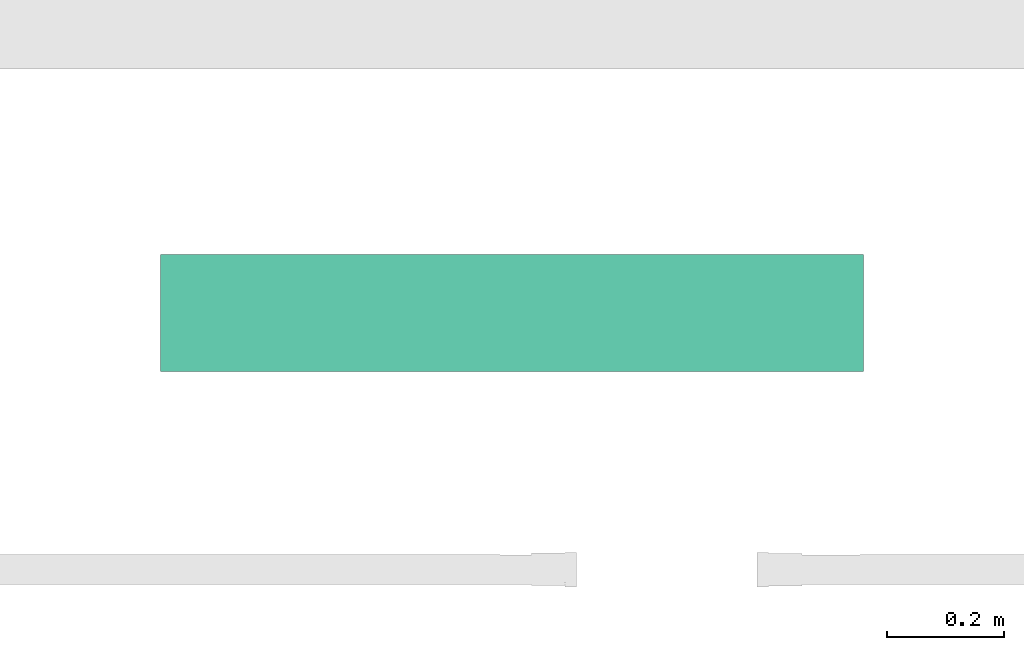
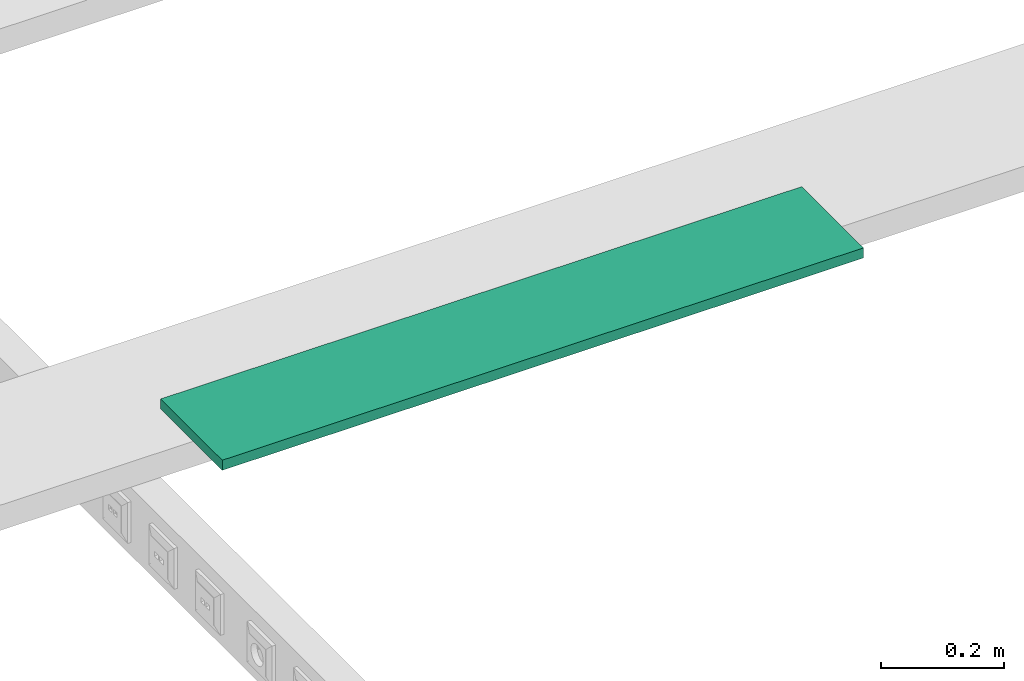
# One storey, part 14 of 153: 1 flow terminal.
"""IFC2X3 building model written with IfcOpenShell, lengths in metres."""

from ifc_helpers import new_model, entity, si_unit, converted_unit, derived_unit, direction, frame, origin, origin_2d_with_axis, place, context, subcontext, project, spatial, rectangle, extrude, source, transform, mapped, type_object, type_shapes, element, save


model = new_model("IFC2X3")

# Units and contexts
model_context = context("Model", 3, precision=1e-05, world=origin(), true_north=direction((6.12303176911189e-17, 1.0)))
body_context = subcontext(model_context, "Body", "Model", "MODEL_VIEW")
ifc_project = project(units=[si_unit("LENGTHUNIT", "METRE"), si_unit("AREAUNIT", "SQUARE_METRE"), si_unit("VOLUMEUNIT", "CUBIC_METRE"), converted_unit("PLANEANGLEUNIT", "DEGREE", entity("IfcRatioMeasure", 0.0174532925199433), si_unit("PLANEANGLEUNIT", "RADIAN"), dimensions=[0, 0, 0, 0, 0, 0, 0]), si_unit("MASSUNIT", "GRAM", prefix="KILO"), derived_unit("MASSDENSITYUNIT", [(si_unit("MASSUNIT", "GRAM", prefix="KILO"), 1), (si_unit("LENGTHUNIT", "METRE"), -3)]), si_unit("TIMEUNIT", "SECOND"), si_unit("FREQUENCYUNIT", "HERTZ"), si_unit("THERMODYNAMICTEMPERATUREUNIT", "DEGREE_CELSIUS"), derived_unit("THERMALTRANSMITTANCEUNIT", [(si_unit("MASSUNIT", "GRAM", prefix="KILO"), 1), (si_unit("THERMODYNAMICTEMPERATUREUNIT", "KELVIN"), -1), (si_unit("TIMEUNIT", "SECOND"), -3)]), derived_unit("VOLUMETRICFLOWRATEUNIT", [(si_unit("LENGTHUNIT", "METRE"), 3), (si_unit("TIMEUNIT", "SECOND"), -1)]), si_unit("ELECTRICCURRENTUNIT", "AMPERE"), si_unit("ELECTRICVOLTAGEUNIT", "VOLT"), si_unit("POWERUNIT", "WATT"), si_unit("FORCEUNIT", "NEWTON"), si_unit("ILLUMINANCEUNIT", "LUX"), si_unit("LUMINOUSFLUXUNIT", "LUMEN"), si_unit("LUMINOUSINTENSITYUNIT", "CANDELA"), derived_unit("USERDEFINED", [(si_unit("MASSUNIT", "GRAM", prefix="KILO"), -1), (si_unit("LENGTHUNIT", "METRE"), -2), (si_unit("TIMEUNIT", "SECOND"), 3), (si_unit("LUMINOUSFLUXUNIT", "LUMEN"), 1)]), derived_unit("LINEARVELOCITYUNIT", [(si_unit("LENGTHUNIT", "METRE"), 1), (si_unit("TIMEUNIT", "SECOND"), -1)]), si_unit("PRESSUREUNIT", "PASCAL"), derived_unit("USERDEFINED", [(si_unit("LENGTHUNIT", "METRE"), -2), (si_unit("MASSUNIT", "GRAM", prefix="KILO"), 1), (si_unit("TIMEUNIT", "SECOND"), -2)])], contexts=[model_context])

# Site, building, storey
site_placement = place(None, origin())
site = spatial("IfcSite", under=ifc_project, at=site_placement, Name="Default", CompositionType="ELEMENT")
building_placement = place(site_placement, origin())
building = spatial("IfcBuilding", under=site, at=building_placement, CompositionType="ELEMENT")
storey_placement = place(building_placement, frame((0.0, 0.0, -4.62)))
storey = spatial("IfcBuildingStorey", under=building, at=storey_placement, Name="S02", CompositionType="ELEMENT", Elevation=-4.62)

# Flow terminal
light_fixture_type = type_object("IfcLightFixtureType", Name="B_Réglete étanche", PredefinedType="NOTDEFINED")
shared_shape = source(origin(), body_context, "Body", "SweptSolid", [
    extrude(rectangle(XDim=0.199999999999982, YDim=1.2, at=origin_2d_with_axis()), frame((0.0, 0.0, 0.0), z_axis=(0.0, 0.0, 1.0), x_axis=(0.0, 1.0, 0.0)), (0.0, 0.0, 1.0), 0.02),
])
type_shapes(light_fixture_type, [shared_shape])
flow_terminal_placement = place(storey_placement, frame((51.4766087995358, -190.432084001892, 4.175), z_axis=(0.0, 0.0, -1.0), x_axis=(-1.0, 0.0, 0.0)))
element("IfcFlowTerminal", 1, at=flow_terminal_placement, inside=storey, type_object=light_fixture_type, Name="II_PREF_Type B Réglette étanche:B_Réglete étanche", ObjectType="II_PREF_Type B Réglette étanche:B_Réglete étanche", context=body_context, shape_type="MappedRepresentation", body=[
    mapped(shared_shape, transform((0.0, 0.0, 0.0), scale=1.0)),
])

save(model, "model.ifc")
